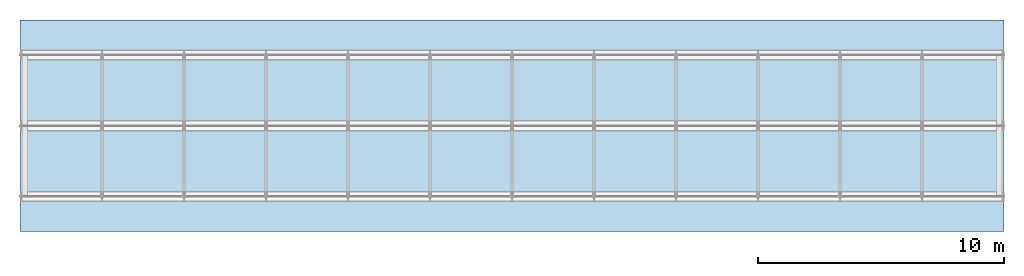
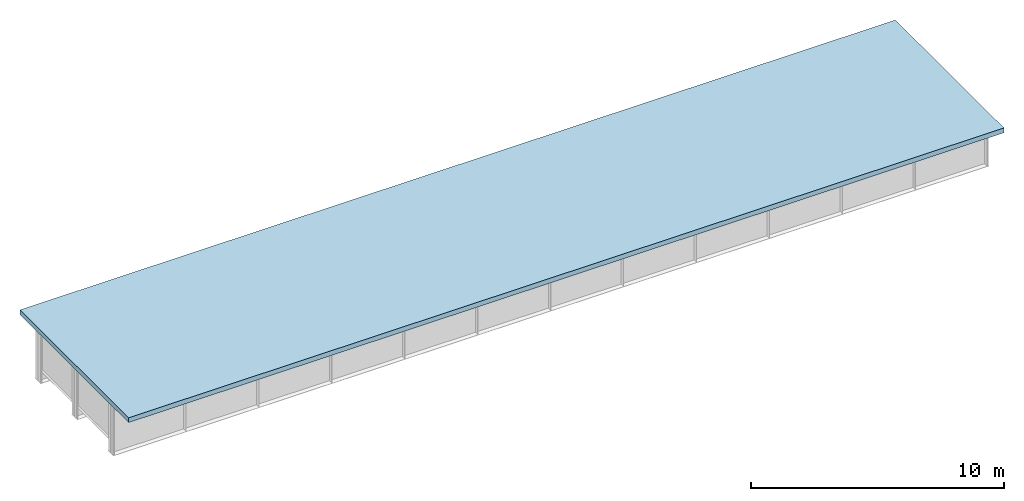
# One storey, part 8 of 12: 1 slab.
"""IFC4 building model written with IfcOpenShell, lengths in metres."""

from ifc_helpers import new_model, si_unit, frame, origin, origin_with_axes, place, context, subcontext, project, spatial, polyline, outline, extrude, element, save


model = new_model("IFC4")

# Units and contexts
model_context = context("Model", 3, precision=1e-05, world=origin())
body_context = subcontext(model_context, "Body", "Model", "MODEL_VIEW")
ifc_project = project(units=[si_unit("LENGTHUNIT", "METRE"), si_unit("AREAUNIT", "SQUARE_METRE"), si_unit("VOLUMEUNIT", "CUBIC_METRE"), si_unit("PLANEANGLEUNIT", "RADIAN")], contexts=[model_context])

# Site, building, storey
site_placement = place(None, origin_with_axes())
site = spatial("IfcSite", under=ifc_project, at=site_placement, Name="Default Site")
building_placement = place(site_placement, origin_with_axes())
building = spatial("IfcBuilding", under=site, at=building_placement, Name="Bridge Structure")
storey_placement = place(building_placement, origin_with_axes())
storey = spatial("IfcBuildingStorey", under=building, at=storey_placement, Name="Superstructure")

# Slab
slab_placement = place(storey_placement, frame((0.0, 0.0, 1.173), z_axis=(0.0, 0.0, 1.0), x_axis=(1.0, 0.0, 0.0)))
element("IfcSlab", 1, at=slab_placement, inside=storey, Name="Deck Slab", context=body_context, shape_type="SweptSolid", body=[
    extrude(outline(polyline([(0.0, -4.3), (40.0, -4.3), (40.0, 4.3), (0.0, 4.3), (0.0, -4.3)])), origin_with_axes(), (0.0, 0.0, 1.0), 0.23),
])

save(model, "model.ifc")
